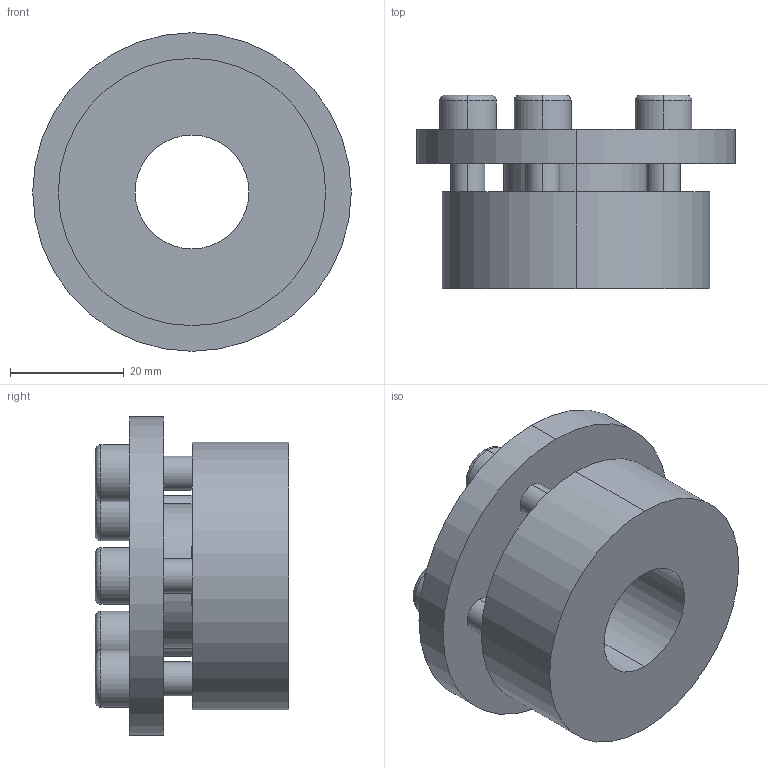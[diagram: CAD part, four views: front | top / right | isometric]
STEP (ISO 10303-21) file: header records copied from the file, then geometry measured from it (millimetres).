
FILE_DESCRIPTION (( 'STEP AP203' ), '1' );
FILE_NAME ('PL-H6 20-47.STEP', '2021-10-23T01:34:22', ( '' ), ( '' ), 'SwSTEP 2.0', 'SolidWorks 2018', '' );
FILE_SCHEMA (( 'CONFIG_CONTROL_DESIGN' ));
Length unit declared in the file: millimetre
Products named in the file (1): PL-H6 20-47
Bounding box: 56 x 34 x 56 mm (x, y, z)
Volume: 40715.3 mm3; surface area: 13799.3 mm2
Topology: 1 solids, 1 shells, 82 faces, 194 edges, 126 vertices
Faces by surface type: plane 44, cylinder 28, torus 10
Entity records: 2475 total; most frequent: DIRECTION 436, CARTESIAN_POINT 403, ORIENTED_EDGE 388, EDGE_CURVE 194, AXIS2_PLACEMENT_3D 159, VERTEX_POINT 126, LINE 118, VECTOR 118
